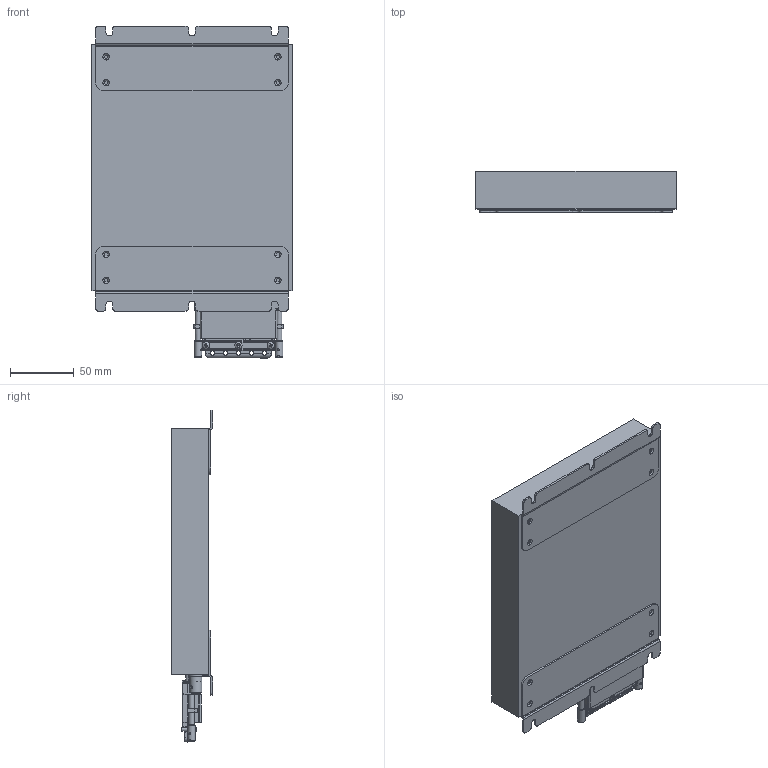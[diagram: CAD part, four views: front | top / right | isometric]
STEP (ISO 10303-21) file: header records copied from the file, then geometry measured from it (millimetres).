
FILE_DESCRIPTION (( 'STEP AP203' ), '1' );
FILE_NAME ('GTR20_rev1.STEP', '2013-04-05T16:06:36', ( 'Garmin' ), ( 'Garmin' ), 'SwSTEP 2.0', 'SolidWorks 2012', '' );
FILE_SCHEMA (( 'CONFIG_CONTROL_DESIGN' ));
Length unit declared in the file: millimetre
Products named in the file (1): GTR20_rev1
Bounding box: 156.97 x 32.51 x 260.32 mm (x, y, z)
Volume: 951475.1 mm3; surface area: 110507.6 mm2
Topology: 2 solids, 10 shells, 2355 faces, 6107 edges, 4005 vertices
Faces by surface type: plane 1225, bspline 818, cylinder 273, cone 21, torus 9, sphere 9
Full cylindrical faces by diameter (mm): 0.991 x37, 1.52 x1, 1.588 x2, 1.778 x1, 2.032 x2, 2.261 x2, 2.845 x6, 2.946 x8, 3.05 x2, 3.2 x2, 3.302 x3, 3.454 x5, 4.572 x2, 4.7 x1, 4.801 x2, 5.588 x3, 5.944 x2, 8.255 x1, 9.576 x1, 11.3 x1
Entity records: 113257 total; most frequent: CARTESIAN_POINT 62871, ORIENTED_EDGE 11822, DIRECTION 7322, EDGE_CURVE 5911, VERTEX_POINT 3932, VECTOR 3320, LINE 3320, EDGE_LOOP 2743
